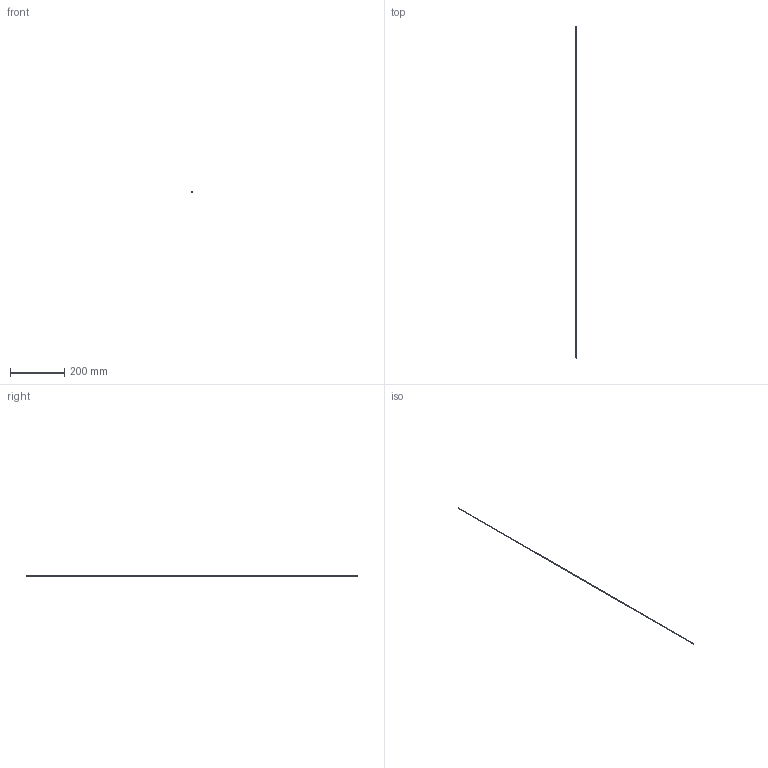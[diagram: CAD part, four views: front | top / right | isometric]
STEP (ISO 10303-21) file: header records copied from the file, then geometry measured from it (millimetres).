
FILE_DESCRIPTION(/* description */ (''),/* implementation_level */ '2;1');
FILE_NAME(/* name */ 'C:/Users/drich/Desktop/HF093T-48 v1.step',/* time_stamp */ '2019-12-30T13:35:33-06:00',/* author */ (''),/* organization */ (''),/* preprocessor_version */ 'ST-DEVELOPER v18',/* originating_system */ 'Autodesk Translation Framework v8.12.0.6',/* authorisation */ '');
FILE_SCHEMA (('AUTOMOTIVE_DESIGN { 1 0 10303 214 3 1 1 }'));
Length unit declared in the file: inch
Products named in the file (1): HF093T-48
Bounding box: 3.21 x 1219.2 x 3.23 mm (x, y, z)
Volume: 1448 mm3; surface area: 16167.1 mm2
Topology: 1 solids, 1 shells, 11 faces, 27 edges, 20 vertices
Faces by surface type: cylinder 4, plane 4, torus 2, cone 1
Full cylindrical faces by diameter (mm): 1.93 x1, 2.286 x1, 3.096 x1, 3.226 x1
Entity records: 390 total; most frequent: DIRECTION 73, CARTESIAN_POINT 59, ORIENTED_EDGE 54, AXIS2_PLACEMENT_3D 34, EDGE_CURVE 27, CIRCLE 22, VERTEX_POINT 20, EDGE_LOOP 15
